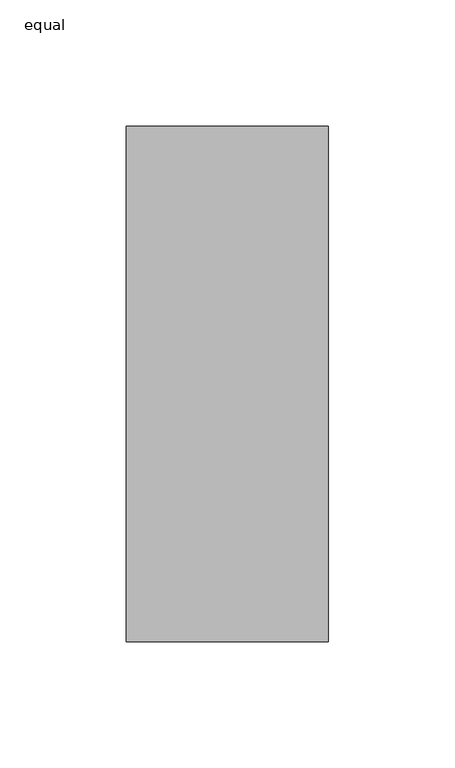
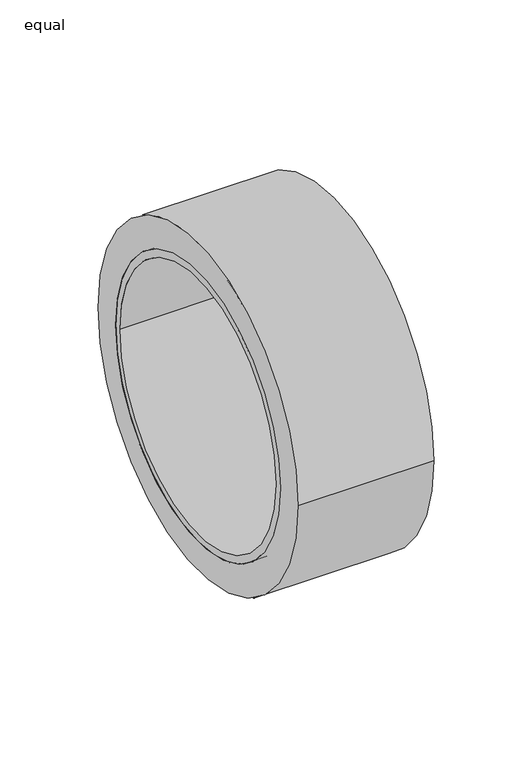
"""IFC4 building model written with IfcOpenShell, lengths in millimetres: pipe fitting geometry, PIF_ST_UN_GM-X compound pipe multi-tee_ACO : equal."""

from ifc_helpers import new_model, si_unit, point, frame, origin, origin_2d, place, context, project, spatial, polyline, circle_curve, trimmed, segment, composite_curve, outline, extrude, source, transform, mapped, element, save
from ifc_brep_helpers import plane_surface, cylinder_surface, revolved_surface, advanced_brep


def equal_f502bca4(model_context):
    return source(origin(), model_context, "Body", "SolidModel", [
        extrude(outline(composite_curve([segment(trimmed(circle_curve(origin_2d(), 102.0), [point((102.0, 0.0))], [point((-102.0, 0.0))], False, "CARTESIAN"), True, "CONTINUOUS"), segment(trimmed(circle_curve(origin_2d(), 102.0), [point((-102.0, 0.0))], [point((102.0, 0.0))], False, "CARTESIAN"), True, "CONTINUOUS")], self_intersect=False), holes=[composite_curve([segment(trimmed(circle_curve(origin_2d(), 84.0), [point((-84.0, 0.0))], [point((84.0, 0.0))], True, "CARTESIAN"), True, "CONTINUOUS"), segment(trimmed(circle_curve(origin_2d(), 84.0), [point((84.0, 0.0))], [point((-84.0, 0.0))], True, "CARTESIAN"), True, "CONTINUOUS")], self_intersect=False)]), frame((-140.0, 0.0, 0.0), z_axis=(1.0, 0.0, 0.0), x_axis=(0.0, 1.0, 0.0)), (0.0, 0.0, 1.0), 80.0),
        advanced_brep(
        [(-140.0, 84.0, 0.0), (-140.0, -84.0, 0.0), (-140.0, -79.5, 0.0), (-140.0, 79.5, 0.0), (-60.0, 84.0, 0.0), (-60.0, -84.0, 0.0), (-60.0, 79.5, 0.0), (-60.0, -79.5, 0.0), (-105.0, 84.0, 0.0), (-105.0, -84.0, 0.0), (-69.5, -84.0, 0.0), (-69.5, 84.0, 0.0), (-105.0, 90.5, 0.0), (-105.0, -90.5, 0.0), (-69.5, 90.5, 0.0), (-69.5, -90.5, 0.0)],
        [
            (0, 1, circle_curve(frame((-140.0, 0.0, 0.0), z_axis=(-1.0, 0.0, 0.0), x_axis=(0.0, -1.0, 0.0)), 84.0)),
            (1, 0, circle_curve(frame((-140.0, 0.0, 0.0), z_axis=(-1.0, 0.0, 0.0), x_axis=(0.0, -1.0, 0.0)), 84.0)),
            (2, 3, circle_curve(frame((-140.0, 0.0, 0.0), z_axis=(1.0, 0.0, 0.0), x_axis=(0.0, -1.0, 0.0)), 79.5)),
            (3, 2, circle_curve(frame((-140.0, 0.0, 0.0), z_axis=(1.0, 0.0, 0.0), x_axis=(0.0, -1.0, 0.0)), 79.5)),
            (4, 5, circle_curve(frame((-60.0, 0.0, 0.0), z_axis=(1.0, 0.0, 0.0), x_axis=(0.0, -1.0, 0.0)), 84.0)),
            (5, 4, circle_curve(frame((-60.0, 0.0, 0.0), z_axis=(1.0, 0.0, 0.0), x_axis=(0.0, -1.0, 0.0)), 84.0)),
            (6, 7, circle_curve(frame((-60.0, 0.0, 0.0), z_axis=(-1.0, 0.0, 0.0), x_axis=(0.0, -1.0, 0.0)), 79.5)),
            (7, 6, circle_curve(frame((-60.0, 0.0, 0.0), z_axis=(-1.0, 0.0, 0.0), x_axis=(0.0, -1.0, 0.0)), 79.5)),
            (0, 8),
            (8, 9, circle_curve(frame((-105.0, 0.0, 0.0), z_axis=(-1.0, 0.0, 0.0), x_axis=(0.0, -1.0, 0.0)), 84.0)),
            (9, 1),
            (5, 10),
            (10, 11, circle_curve(frame((-69.5, 0.0, 0.0), z_axis=(1.0, 0.0, 0.0), x_axis=(0.0, -1.0, 0.0)), 84.0)),
            (11, 4),
            (9, 8, circle_curve(frame((-105.0, 0.0, 0.0), z_axis=(-1.0, 0.0, 0.0), x_axis=(0.0, -1.0, 0.0)), 84.0)),
            (11, 10, circle_curve(frame((-69.5, 0.0, 0.0), z_axis=(1.0, 0.0, 0.0), x_axis=(0.0, -1.0, 0.0)), 84.0)),
            (2, 7),
            (6, 3),
            (12, 13, circle_curve(frame((-105.0, 0.0, 0.0), z_axis=(-1.0, 0.0, 0.0), x_axis=(0.0, -1.0, 0.0)), 90.5)),
            (13, 12, circle_curve(frame((-105.0, 0.0, 0.0), z_axis=(-1.0, 0.0, 0.0), x_axis=(0.0, -1.0, 0.0)), 90.5)),
            (14, 15, circle_curve(frame((-69.5, 0.0, 0.0), z_axis=(1.0, 0.0, 0.0), x_axis=(0.0, -1.0, 0.0)), 90.5)),
            (15, 14, circle_curve(frame((-69.5, 0.0, 0.0), z_axis=(1.0, 0.0, 0.0), x_axis=(0.0, -1.0, 0.0)), 90.5)),
            (12, 14),
            (15, 13),
        ],
        [
            plane_surface(frame((-140.0, -84.0, 0.0), z_axis=(-1.0, 0.0, 0.0), x_axis=(0.0, 0.0, 1.0))),
            plane_surface(frame((-60.0, -84.0, 0.0), z_axis=(1.0, 0.0, 0.0), x_axis=(0.0, 0.0, -1.0))),
            cylinder_surface(frame((-60.0, 0.0, 0.0), z_axis=(-1.0, 0.0, 0.0), x_axis=(0.0, -1.0, 0.0)), 84.0),
            revolved_surface(polyline([(-140.0, -79.5, 0.0), (-60.0, -79.5, 0.0)]), (-60.0, 0.0, 0.0), (-1.0, 0.0, 0.0)),
            plane_surface(frame((-105.0, -90.5, 0.0), z_axis=(-1.0, 0.0, 0.0), x_axis=(0.0, 0.0, 1.0))),
            plane_surface(frame((-69.5, -90.5, 0.0), z_axis=(1.0, 0.0, 0.0), x_axis=(0.0, 0.0, -1.0))),
            cylinder_surface(frame((-69.5, 0.0, 0.0), z_axis=(-1.0, 0.0, 0.0), x_axis=(0.0, -1.0, 0.0)), 90.5),
        ],
        [
            (0, [[1, 2], [3, 4]]),
            (1, [[5, 6], [7, 8]]),
            (2, [[-1, 9, 10, 11]]),
            (2, [[-6, 12, 13, 14]]),
            (2, [[-2, -11, 15, -9]]),
            (2, [[-5, -14, 16, -12]]),
            (3, [[17, -7, 18, -3]]),
            (3, [[-17, -4, -18, -8]]),
            (4, [[19, 20], [-10, -15]]),
            (5, [[21, 22], [-13, -16]]),
            (6, [[-19, 23, -22, 24]]),
            (6, [[-20, -24, -21, -23]]),
        ],
    ),
    ])


if __name__ == "__main__":
    model = new_model("IFC4")
    model_context = context("Model", 3, world=origin())
    ifc_project = project(units=[si_unit("LENGTHUNIT", "METRE", prefix="MILLI")], contexts=[model_context])
    site = spatial("IfcSite", under=ifc_project)
    building = spatial("IfcBuilding", under=site)
    placement = place(None, origin())
    equal_shape = equal_f502bca4(model_context)
    element("IfcPipeFitting", 1, ObjectType="PIF_ST_UN_GM-X compound pipe multi-tee_ACO : equal", at=placement, inside=building, context=model_context, shape_type="MappedRepresentation", body=[
        mapped(equal_shape, transform((0.0, 0.0, 0.0), x_axis=(1.0, 0.0, 0.0), y_axis=(0.0, 1.0, 0.0), z_axis=(0.0, 0.0, 1.0))),
    ])
    save(model, "model.ifc")
